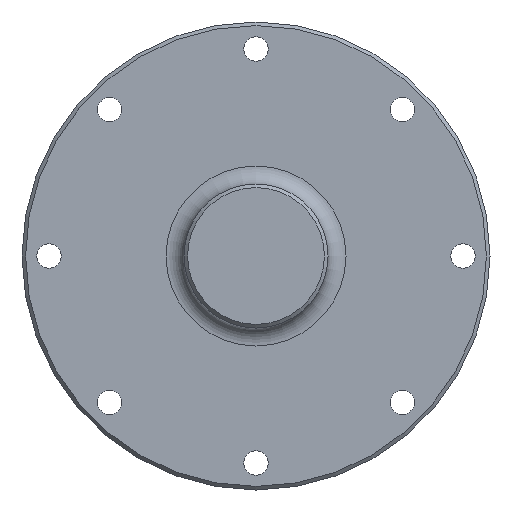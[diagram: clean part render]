
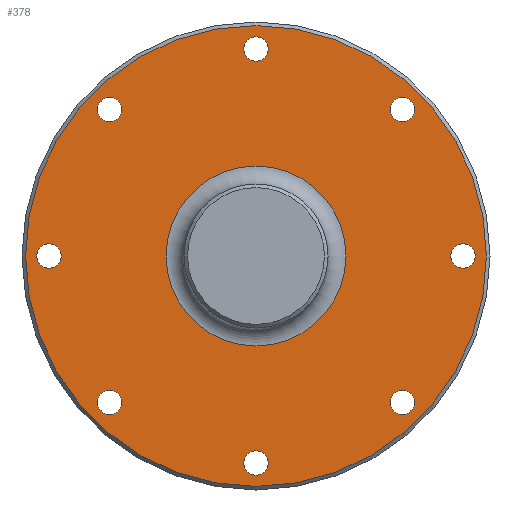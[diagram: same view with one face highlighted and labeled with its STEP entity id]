
A CAD part, left-side view. The second image highlights one B-rep face of the part: STEP entity #378.
In plain terms, the highlighted planar face has unit normal (-1, 0, 0).
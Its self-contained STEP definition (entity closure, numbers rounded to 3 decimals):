
#28=FACE_BOUND('',#124,.T.);
#29=FACE_BOUND('',#125,.T.);
#30=FACE_BOUND('',#126,.T.);
#31=FACE_BOUND('',#127,.T.);
#32=FACE_BOUND('',#128,.T.);
#33=FACE_BOUND('',#129,.T.);
#34=FACE_BOUND('',#130,.T.);
#35=FACE_BOUND('',#131,.T.);
#36=FACE_BOUND('',#132,.T.);
#40=PLANE('',#445);
#93=FACE_OUTER_BOUND('',#123,.T.);
#123=EDGE_LOOP('',(#318));
#124=EDGE_LOOP('',(#319));
#125=EDGE_LOOP('',(#320));
#126=EDGE_LOOP('',(#321));
#127=EDGE_LOOP('',(#322));
#128=EDGE_LOOP('',(#323));
#129=EDGE_LOOP('',(#324));
#130=EDGE_LOOP('',(#325));
#131=EDGE_LOOP('',(#326));
#132=EDGE_LOOP('',(#327));
#167=CIRCLE('',#444,128.);
#168=CIRCLE('',#446,50.);
#169=CIRCLE('',#447,6.75);
#170=CIRCLE('',#448,6.75);
#171=CIRCLE('',#449,6.75);
#172=CIRCLE('',#450,6.75);
#173=CIRCLE('',#451,6.75);
#174=CIRCLE('',#452,6.75);
#175=CIRCLE('',#453,6.75);
#176=CIRCLE('',#454,6.75);
#202=VERTEX_POINT('',#663);
#203=VERTEX_POINT('',#667);
#204=VERTEX_POINT('',#669);
#205=VERTEX_POINT('',#671);
#206=VERTEX_POINT('',#673);
#207=VERTEX_POINT('',#675);
#208=VERTEX_POINT('',#677);
#209=VERTEX_POINT('',#679);
#210=VERTEX_POINT('',#681);
#211=VERTEX_POINT('',#683);
#244=EDGE_CURVE('',#202,#202,#167,.T.);
#245=EDGE_CURVE('',#203,#203,#168,.T.);
#246=EDGE_CURVE('',#204,#204,#169,.T.);
#247=EDGE_CURVE('',#205,#205,#170,.T.);
#248=EDGE_CURVE('',#206,#206,#171,.T.);
#249=EDGE_CURVE('',#207,#207,#172,.T.);
#250=EDGE_CURVE('',#208,#208,#173,.T.);
#251=EDGE_CURVE('',#209,#209,#174,.T.);
#252=EDGE_CURVE('',#210,#210,#175,.T.);
#253=EDGE_CURVE('',#211,#211,#176,.T.);
#318=ORIENTED_EDGE('',*,*,#244,.F.);
#319=ORIENTED_EDGE('',*,*,#245,.F.);
#320=ORIENTED_EDGE('',*,*,#246,.T.);
#321=ORIENTED_EDGE('',*,*,#247,.T.);
#322=ORIENTED_EDGE('',*,*,#248,.T.);
#323=ORIENTED_EDGE('',*,*,#249,.T.);
#324=ORIENTED_EDGE('',*,*,#250,.T.);
#325=ORIENTED_EDGE('',*,*,#251,.T.);
#326=ORIENTED_EDGE('',*,*,#252,.T.);
#327=ORIENTED_EDGE('',*,*,#253,.T.);
#378=ADVANCED_FACE('',(#93,#28,#29,#30,#31,#32,#33,#34,#35,#36),#40,.T.);
#444=AXIS2_PLACEMENT_3D('',#665,#546,#547);
#445=AXIS2_PLACEMENT_3D('',#666,#548,#549);
#446=AXIS2_PLACEMENT_3D('',#668,#550,#551);
#447=AXIS2_PLACEMENT_3D('',#670,#552,#553);
#448=AXIS2_PLACEMENT_3D('',#672,#554,#555);
#449=AXIS2_PLACEMENT_3D('',#674,#556,#557);
#450=AXIS2_PLACEMENT_3D('',#676,#558,#559);
#451=AXIS2_PLACEMENT_3D('',#678,#560,#561);
#452=AXIS2_PLACEMENT_3D('',#680,#562,#563);
#453=AXIS2_PLACEMENT_3D('',#682,#564,#565);
#454=AXIS2_PLACEMENT_3D('',#684,#566,#567);
#546=DIRECTION('center_axis',(1.,0.,0.));
#547=DIRECTION('ref_axis',(0.,-1.,0.));
#548=DIRECTION('center_axis',(-1.,0.,0.));
#549=DIRECTION('ref_axis',(0.,0.,1.));
#550=DIRECTION('center_axis',(-1.,0.,0.));
#551=DIRECTION('ref_axis',(0.,-1.,0.));
#552=DIRECTION('center_axis',(1.,0.,0.));
#553=DIRECTION('ref_axis',(0.,0.,1.));
#554=DIRECTION('center_axis',(1.,0.,0.));
#555=DIRECTION('ref_axis',(0.,-0.707,0.707));
#556=DIRECTION('center_axis',(1.,0.,0.));
#557=DIRECTION('ref_axis',(0.,-1.,0.));
#558=DIRECTION('center_axis',(1.,0.,0.));
#559=DIRECTION('ref_axis',(0.,-0.707,-0.707));
#560=DIRECTION('center_axis',(1.,0.,0.));
#561=DIRECTION('ref_axis',(0.,0.,-1.));
#562=DIRECTION('center_axis',(1.,0.,0.));
#563=DIRECTION('ref_axis',(0.,0.707,-0.707));
#564=DIRECTION('center_axis',(1.,0.,0.));
#565=DIRECTION('ref_axis',(0.,1.,0.));
#566=DIRECTION('center_axis',(1.,0.,0.));
#567=DIRECTION('ref_axis',(0.,0.707,0.707));
#663=CARTESIAN_POINT('',(184.,128.,0.));
#665=CARTESIAN_POINT('Origin',(184.,0.,0.));
#666=CARTESIAN_POINT('Origin',(184.,130.,0.));
#667=CARTESIAN_POINT('',(184.,0.,50.));
#668=CARTESIAN_POINT('Origin',(184.,0.,0.));
#669=CARTESIAN_POINT('',(184.,115.,-6.75));
#670=CARTESIAN_POINT('Origin',(184.,115.,0.));
#671=CARTESIAN_POINT('',(184.,86.09,76.544));
#672=CARTESIAN_POINT('Origin',(184.,81.317,81.317));
#673=CARTESIAN_POINT('',(184.,6.75,115.));
#674=CARTESIAN_POINT('Origin',(184.,0.,115.));
#675=CARTESIAN_POINT('',(184.,-76.544,86.09));
#676=CARTESIAN_POINT('Origin',(184.,-81.317,81.317));
#677=CARTESIAN_POINT('',(184.,-115.,6.75));
#678=CARTESIAN_POINT('Origin',(184.,-115.,0.));
#679=CARTESIAN_POINT('',(184.,-86.09,-76.544));
#680=CARTESIAN_POINT('Origin',(184.,-81.317,-81.317));
#681=CARTESIAN_POINT('',(184.,-6.75,-115.));
#682=CARTESIAN_POINT('Origin',(184.,0.,-115.));
#683=CARTESIAN_POINT('',(184.,76.544,-86.09));
#684=CARTESIAN_POINT('Origin',(184.,81.317,-81.317));
